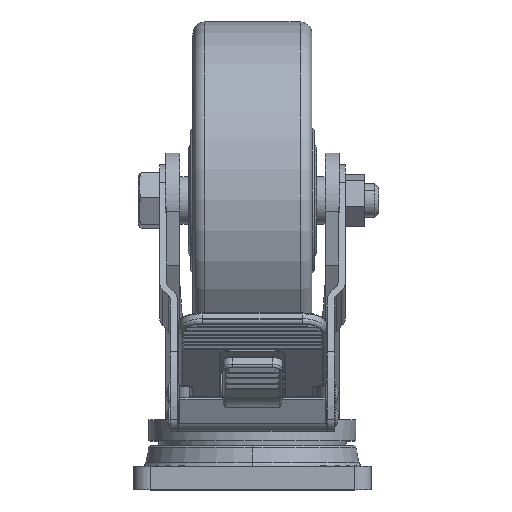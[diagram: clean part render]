
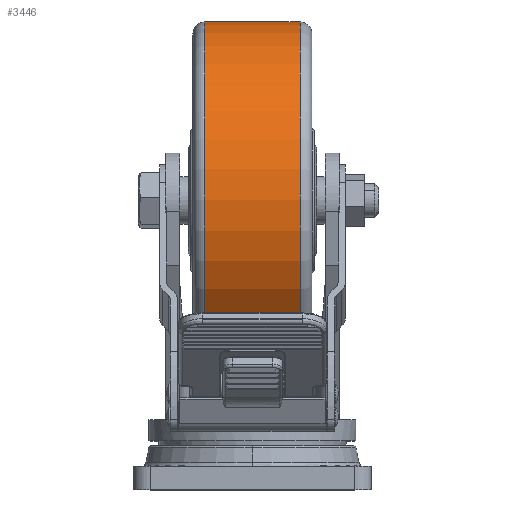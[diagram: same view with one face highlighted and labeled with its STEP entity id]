
A CAD part, top view. The second image highlights one B-rep face of the part: STEP entity #3446.
In plain terms, the highlighted cylindrical face has radius 75 mm (diameter 150 mm), a partial arc.
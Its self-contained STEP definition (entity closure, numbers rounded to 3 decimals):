
#689=CARTESIAN_POINT('',(0.,0.,20.));
#690=DIRECTION('',(0.,0.,-1.));
#691=DIRECTION('',(0.,1.,0.));
#692=AXIS2_PLACEMENT_3D('',#689,#690,#691);
#699=DIRECTION('',(0.,0.,1.));
#700=VECTOR('',#699,40.);
#701=CARTESIAN_POINT('',(0.,-75.,-20.));
#702=LINE('',#701,#700);
#708=CARTESIAN_POINT('',(0.,0.,-20.));
#709=DIRECTION('',(0.,0.,1.));
#710=DIRECTION('',(0.,-1.,0.));
#711=AXIS2_PLACEMENT_3D('',#708,#709,#710);
#743=DIRECTION('',(0.,0.,1.));
#744=VECTOR('',#743,40.);
#745=CARTESIAN_POINT('',(0.,75.,-20.));
#746=LINE('',#745,#744);
#3003=CARTESIAN_POINT('',(0.,75.,20.));
#3004=CARTESIAN_POINT('',(0.,-75.,20.));
#3005=VERTEX_POINT('',#3003);
#3006=VERTEX_POINT('',#3004);
#3007=CARTESIAN_POINT('',(0.,-75.,-20.));
#3008=CARTESIAN_POINT('',(0.,75.,-20.));
#3009=VERTEX_POINT('',#3007);
#3010=VERTEX_POINT('',#3008);
#3432=CARTESIAN_POINT('',(0.,0.,26.));
#3433=DIRECTION('',(0.,0.,1.));
#3434=DIRECTION('',(0.,-1.,0.));
#3435=AXIS2_PLACEMENT_3D('',#3432,#3433,#3434);
#3436=CYLINDRICAL_SURFACE('',#3435,75.);
#3438=ORIENTED_EDGE('',*,*,#3437,.F.);
#3440=ORIENTED_EDGE('',*,*,#3439,.T.);
#3441=ORIENTED_EDGE('',*,*,#3422,.F.);
#3443=ORIENTED_EDGE('',*,*,#3442,.F.);
#3444=EDGE_LOOP('',(#3438,#3440,#3441,#3443));
#3445=FACE_OUTER_BOUND('',#3444,.F.);
#693=CIRCLE('',#692,75.);
#712=CIRCLE('',#711,75.);
#3422=EDGE_CURVE('',#3005,#3006,#693,.T.);
#3437=EDGE_CURVE('',#3009,#3010,#712,.T.);
#3439=EDGE_CURVE('',#3009,#3006,#702,.T.);
#3442=EDGE_CURVE('',#3010,#3005,#746,.T.);
#3446=ADVANCED_FACE('',(#3445),#3436,.T.);
